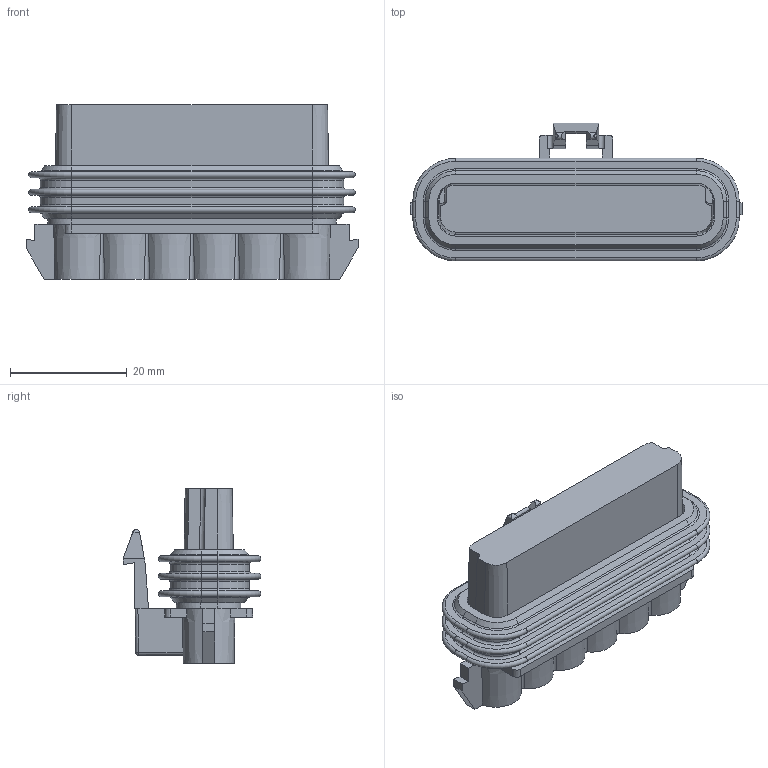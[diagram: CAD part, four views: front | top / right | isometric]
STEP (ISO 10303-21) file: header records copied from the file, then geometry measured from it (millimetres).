
FILE_DESCRIPTION(/* description */ (''),/* implementation_level */ '2;1');
FILE_NAME(/* name */ '12059573-ENV11_03-CONN.stp',/* time_stamp */ '2021-09-18T14:49:30+05:00',/* author */ (''),/* organization */ (''),/* preprocessor_version */ 'ST-DEVELOPER v16',/* originating_system */ 'SIEMENS PLM Software NX 11.0',/* authorisation */ '');
FILE_SCHEMA (('AP203_CONFIGURATION_CONTROLLED_3D_DESIGN_OF_MECHANICAL_PARTS_AND_ASSEMBLIES_MIM_LF { 1 0 10303 403 2 1 2}'));
Length unit declared in the file: millimetre
Products named in the file (1): hjcv348867DBm6rb
Bounding box: 56.8 x 23.58 x 29.9 mm (x, y, z)
Volume: 15343.3 mm3; surface area: 9352.1 mm2
Topology: 2 solids, 2 shells, 264 faces, 701 edges, 442 vertices
Faces by surface type: plane 121, cylinder 63, cone 42, torus 36, sphere 2
Entity records: 8396 total; most frequent: CARTESIAN_POINT 1544, DIRECTION 1481, ORIENTED_EDGE 1398, EDGE_CURVE 699, AXIS2_PLACEMENT_3D 537, VERTEX_POINT 442, LINE 407, VECTOR 407
